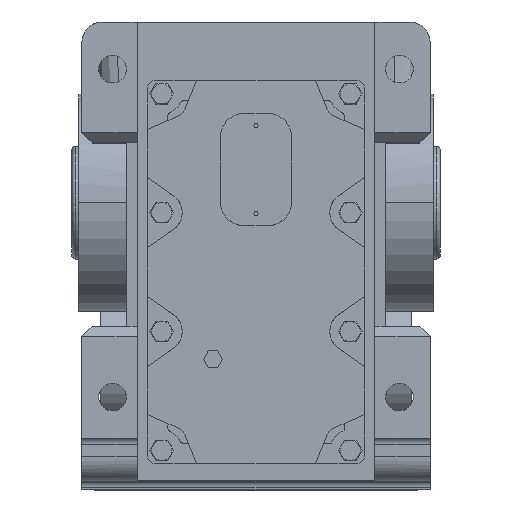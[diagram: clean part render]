
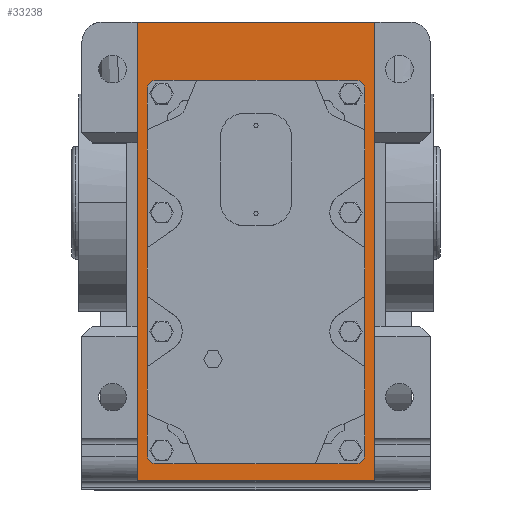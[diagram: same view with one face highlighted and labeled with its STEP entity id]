
A CAD part, top view. The second image highlights one B-rep face of the part: STEP entity #33238.
In plain terms, the highlighted planar face has unit normal (0, 0, 1).
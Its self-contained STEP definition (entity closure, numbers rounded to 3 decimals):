
#1505 = LINE ( 'NONE', #30767, #2550 ) ;
#1729 = LINE ( 'NONE', #30800, #2025 ) ;
#1802 = LINE ( 'NONE', #30802, #2406 ) ;
#2025 = VECTOR ( 'NONE', #30801, 1000. ) ;
#2038 = CIRCLE ( 'NONE', #35277, 4. ) ;
#2382 = CIRCLE ( 'NONE', #35274, 4. ) ;
#2406 = VECTOR ( 'NONE', #30803, 1000. ) ;
#2481 = LINE ( 'NONE', #30789, #2782 ) ;
#2511 = VECTOR ( 'NONE', #30779, 1000. ) ;
#2521 = VECTOR ( 'NONE', #30778, 1000. ) ;
#2550 = VECTOR ( 'NONE', #30768, 1000. ) ;
#2632 = LINE ( 'NONE', #30795, #2777 ) ;
#2706 = LINE ( 'NONE', #30780, #2521 ) ;
#2760 = CIRCLE ( 'NONE', #35276, 4. ) ;
#2777 = VECTOR ( 'NONE', #30799, 1000. ) ;
#2782 = VECTOR ( 'NONE', #30785, 1000. ) ;
#3020 = VECTOR ( 'NONE', #30790, 1000. ) ;
#3259 = CIRCLE ( 'NONE', #35275, 4. ) ;
#3281 = LINE ( 'NONE', #30794, #3020 ) ;
#3317 = LINE ( 'NONE', #30784, #2511 ) ;
#9025 = EDGE_CURVE ( 'NONE', #44792, #44787, #1505, .T. ) ;
#9026 = EDGE_CURVE ( 'NONE', #44792, #44790, #2382, .T. ) ;
#9027 = EDGE_CURVE ( 'NONE', #44782, #44790, #2706, .T. ) ;
#9028 = EDGE_CURVE ( 'NONE', #44782, #44797, #3259, .T. ) ;
#9029 = EDGE_CURVE ( 'NONE', #44774, #44797, #3317, .T. ) ;
#9030 = EDGE_CURVE ( 'NONE', #44774, #34462, #2760, .T. ) ;
#9031 = EDGE_CURVE ( 'NONE', #44789, #34462, #2481, .T. ) ;
#9032 = EDGE_CURVE ( 'NONE', #44789, #44787, #2038, .T. ) ;
#9033 = EDGE_CURVE ( 'NONE', #44776, #44494, #3281, .T. ) ;
#9034 = EDGE_CURVE ( 'NONE', #44494, #44492, #2632, .T. ) ;
#9035 = EDGE_CURVE ( 'NONE', #44492, #44501, #1729, .T. ) ;
#9036 = EDGE_CURVE ( 'NONE', #44501, #44776, #1802, .T. ) ;
#13114 = ORIENTED_EDGE ( 'NONE', *, *, #9034, .T. ) ;
#13127 = ORIENTED_EDGE ( 'NONE', *, *, #9030, .T. ) ;
#13131 = ORIENTED_EDGE ( 'NONE', *, *, #9029, .F. ) ;
#13167 = ORIENTED_EDGE ( 'NONE', *, *, #9031, .F. ) ;
#13216 = ORIENTED_EDGE ( 'NONE', *, *, #9035, .T. ) ;
#13257 = ORIENTED_EDGE ( 'NONE', *, *, #9027, .F. ) ;
#13772 = ORIENTED_EDGE ( 'NONE', *, *, #9032, .T. ) ;
#14098 = ORIENTED_EDGE ( 'NONE', *, *, #9033, .T. ) ;
#14220 = ORIENTED_EDGE ( 'NONE', *, *, #9036, .T. ) ;
#14383 = ORIENTED_EDGE ( 'NONE', *, *, #9025, .F. ) ;
#14421 = ORIENTED_EDGE ( 'NONE', *, *, #9028, .T. ) ;
#14592 = ORIENTED_EDGE ( 'NONE', *, *, #9026, .T. ) ;
#27888 = AXIS2_PLACEMENT_3D ( 'NONE', #31770, #31779, #31780 ) ;
#30767 = CARTESIAN_POINT ( 'NONE',  ( -53., -127.5, 74. ) ) ;
#30768 = DIRECTION ( 'NONE',  ( 0., -1., 0. ) ) ;
#30778 = DIRECTION ( 'NONE',  ( -1., 0., 0. ) ) ;
#30779 = DIRECTION ( 'NONE',  ( 0., 1., 0. ) ) ;
#30780 = CARTESIAN_POINT ( 'NONE',  ( 53., 59.5, 74. ) ) ;
#30781 = CARTESIAN_POINT ( 'NONE',  ( -49., 55.5, 74. ) ) ;
#30782 = DIRECTION ( 'NONE',  ( 0., 0., -1. ) ) ;
#30783 = DIRECTION ( 'NONE',  ( 0., -1., 0. ) ) ;
#30784 = CARTESIAN_POINT ( 'NONE',  ( 53., -34., 74. ) ) ;
#30785 = DIRECTION ( 'NONE',  ( 1., 0., 0. ) ) ;
#30786 = CARTESIAN_POINT ( 'NONE',  ( 49., 55.5, 74. ) ) ;
#30787 = DIRECTION ( 'NONE',  ( 0., 0., -1. ) ) ;
#30788 = DIRECTION ( 'NONE',  ( 0., -1., 0. ) ) ;
#30789 = CARTESIAN_POINT ( 'NONE',  ( 53., -127.5, 74. ) ) ;
#30790 = DIRECTION ( 'NONE',  ( 0., -1., 0. ) ) ;
#30791 = CARTESIAN_POINT ( 'NONE',  ( 49., -123.5, 74. ) ) ;
#30792 = DIRECTION ( 'NONE',  ( 0., 0., -1. ) ) ;
#30793 = DIRECTION ( 'NONE',  ( 0., -1., 0. ) ) ;
#30794 = CARTESIAN_POINT ( 'NONE',  ( -58., 88., 74. ) ) ;
#30795 = CARTESIAN_POINT ( 'NONE',  ( -58., -135.832, 74. ) ) ;
#30796 = CARTESIAN_POINT ( 'NONE',  ( -49., -123.5, 74. ) ) ;
#30797 = DIRECTION ( 'NONE',  ( 0., 0., -1. ) ) ;
#30798 = DIRECTION ( 'NONE',  ( 0., -1., 0. ) ) ;
#30799 = DIRECTION ( 'NONE',  ( 1., 0., 0. ) ) ;
#30800 = CARTESIAN_POINT ( 'NONE',  ( 58., -135.832, 74. ) ) ;
#30801 = DIRECTION ( 'NONE',  ( 0., 1., 0. ) ) ;
#30802 = CARTESIAN_POINT ( 'NONE',  ( 58., 88., 74. ) ) ;
#30803 = DIRECTION ( 'NONE',  ( -1., 0., 0. ) ) ;
#31770 = CARTESIAN_POINT ( 'NONE',  ( -58., -135.832, 74. ) ) ;
#31774 = PLANE ( 'NONE',  #27888 ) ;
#31779 = DIRECTION ( 'NONE',  ( 0., 0., 1. ) ) ;
#31780 = DIRECTION ( 'NONE',  ( 1., 0., 0. ) ) ;
#33238 = ADVANCED_FACE ( 'NONE', ( #54091, #53497 ), #31774, .T. ) ;
#34462 = VERTEX_POINT ( 'NONE', #57631 ) ;
#34487 = EDGE_LOOP ( 'NONE', ( #14098, #13114, #13216, #14220 ) ) ;
#34502 = EDGE_LOOP ( 'NONE', ( #14383, #14592, #13257, #14421, #13131, #13127, #13167, #13772 ) ) ;
#35274 = AXIS2_PLACEMENT_3D ( 'NONE', #30781, #30782, #30783 ) ;
#35275 = AXIS2_PLACEMENT_3D ( 'NONE', #30786, #30787, #30788 ) ;
#35276 = AXIS2_PLACEMENT_3D ( 'NONE', #30791, #30792, #30793 ) ;
#35277 = AXIS2_PLACEMENT_3D ( 'NONE', #30796, #30797, #30798 ) ;
#43539 = CARTESIAN_POINT ( 'NONE',  ( 58., -135.832, 74. ) ) ;
#43541 = CARTESIAN_POINT ( 'NONE',  ( -58., -135.832, 74. ) ) ;
#43548 = CARTESIAN_POINT ( 'NONE',  ( 58., 88., 74. ) ) ;
#43645 = CARTESIAN_POINT ( 'NONE',  ( 53., -123.5, 74. ) ) ;
#43647 = CARTESIAN_POINT ( 'NONE',  ( -58., 88., 74. ) ) ;
#43653 = CARTESIAN_POINT ( 'NONE',  ( 49., 59.5, 74. ) ) ;
#43658 = CARTESIAN_POINT ( 'NONE',  ( -53., -123.5, 74. ) ) ;
#43660 = CARTESIAN_POINT ( 'NONE',  ( -49., -127.5, 74. ) ) ;
#43661 = CARTESIAN_POINT ( 'NONE',  ( -49., 59.5, 74. ) ) ;
#43663 = CARTESIAN_POINT ( 'NONE',  ( -53., 55.5, 74. ) ) ;
#43668 = CARTESIAN_POINT ( 'NONE',  ( 53., 55.5, 74. ) ) ;
#44492 = VERTEX_POINT ( 'NONE', #43539 ) ;
#44494 = VERTEX_POINT ( 'NONE', #43541 ) ;
#44501 = VERTEX_POINT ( 'NONE', #43548 ) ;
#44774 = VERTEX_POINT ( 'NONE', #43645 ) ;
#44776 = VERTEX_POINT ( 'NONE', #43647 ) ;
#44782 = VERTEX_POINT ( 'NONE', #43653 ) ;
#44787 = VERTEX_POINT ( 'NONE', #43658 ) ;
#44789 = VERTEX_POINT ( 'NONE', #43660 ) ;
#44790 = VERTEX_POINT ( 'NONE', #43661 ) ;
#44792 = VERTEX_POINT ( 'NONE', #43663 ) ;
#44797 = VERTEX_POINT ( 'NONE', #43668 ) ;
#53497 = FACE_OUTER_BOUND ( 'NONE', #34487, .T. ) ;
#54091 = FACE_BOUND ( 'NONE', #34502, .T. ) ;
#57631 = CARTESIAN_POINT ( 'NONE',  ( 49., -127.5, 74. ) ) ;
